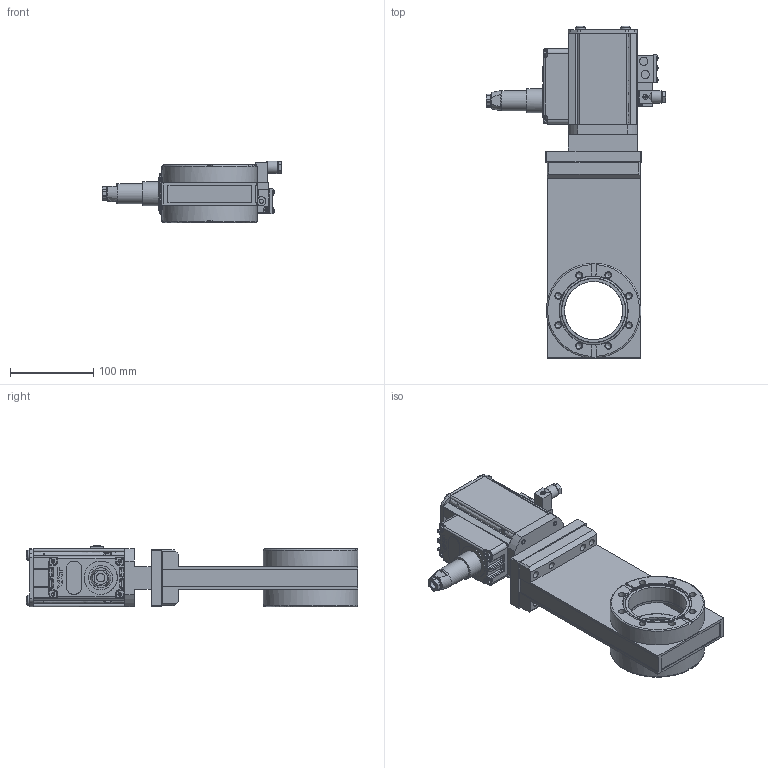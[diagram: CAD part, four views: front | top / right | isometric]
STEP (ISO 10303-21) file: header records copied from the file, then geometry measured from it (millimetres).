
FILE_DESCRIPTION((''),'2;1');
FILE_NAME('O:\MT\MT\Systeme\Cad\Datenexporte\www_vat_ch\200232.stp','2005-07-01T07:06:09',('User'),('SDRC'),'I-DEAS Master Series 9','UNIX','Yes');
FILE_SCHEMA(('CONFIG_CONTROL_DESIGN'));
Length unit declared in the file: millimetre
Assembly tree (31 placements, depth 0):
Bounding box: 216.15 x 399.27 x 74.35 mm (x, y, z)
Volume: 1196492.4 mm3; surface area: 361678.7 mm2
Topology: 28 solids, 28 shells, 1136 faces, 2685 edges, 1720 vertices
Faces by surface type: bspline 1136
Entity records: 32112 total; most frequent: CARTESIAN_POINT 16539, ORIENTED_EDGE 4178, EDGE_CURVE 2089, VERTEX_POINT 1347, EDGE_LOOP 1108, FACE_OUTER_BOUND 896, ADVANCED_FACE 896, QUASI_UNIFORM_CURVE 714
